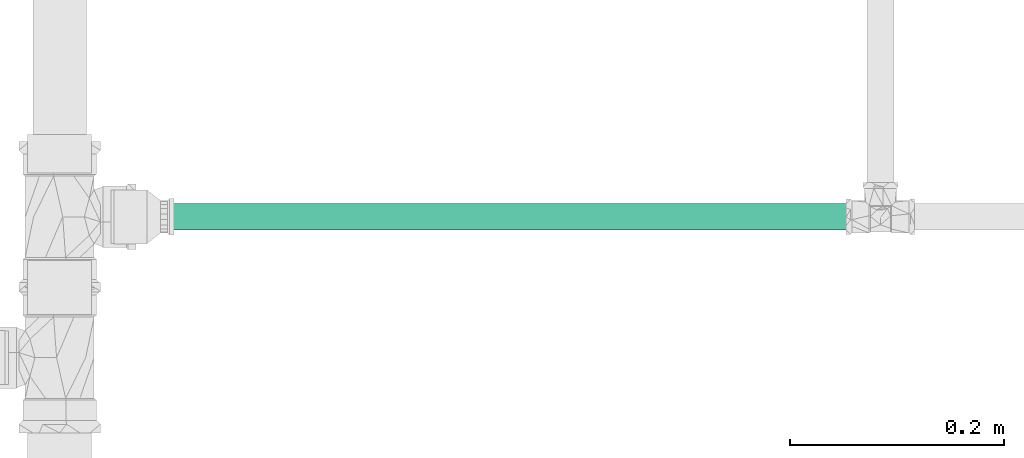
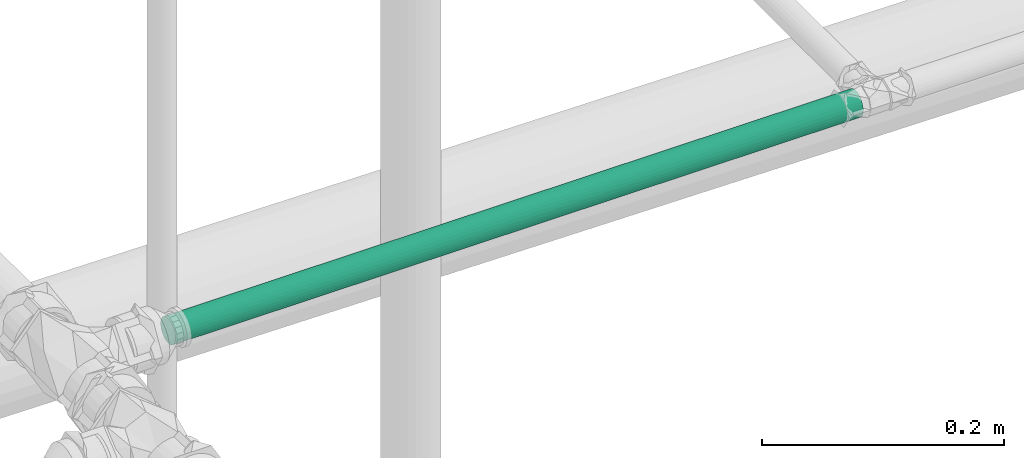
# One storey, part 196 of 589: 1 flow segment.
"""IFC2X3 building model written with IfcOpenShell, lengths in millimetres."""

from ifc_helpers import new_model, entity, si_unit, converted_unit, derived_unit, direction, frame, origin, origin_2d_with_axis, place, context, subcontext, project, spatial, circle, extrude, type_object, element, save


model = new_model("IFC2X3")

# Units and contexts
model_context = context("Model", 3, precision=0.01, world=origin(), true_north=direction((6.123031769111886e-17, 1.0)))
body_context = subcontext(model_context, "Body", "Model", "MODEL_VIEW")
ifc_project = project(units=[si_unit("LENGTHUNIT", "METRE", prefix="MILLI"), si_unit("AREAUNIT", "SQUARE_METRE"), si_unit("VOLUMEUNIT", "CUBIC_METRE"), converted_unit("PLANEANGLEUNIT", "DEGREE", entity("IfcRatioMeasure", 0.017453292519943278), si_unit("PLANEANGLEUNIT", "RADIAN"), dimensions=[0, 0, 0, 0, 0, 0, 0]), si_unit("MASSUNIT", "GRAM", prefix="KILO"), derived_unit("MASSDENSITYUNIT", [(si_unit("MASSUNIT", "GRAM", prefix="KILO"), 1), (si_unit("LENGTHUNIT", "METRE"), -3)]), derived_unit("IONCONCENTRATIONUNIT", [(si_unit("MASSUNIT", "GRAM", prefix="KILO"), 1), (si_unit("LENGTHUNIT", "METRE"), -3)]), derived_unit("MOMENTOFINERTIAUNIT", [(si_unit("LENGTHUNIT", "METRE"), 4)]), si_unit("TIMEUNIT", "SECOND"), si_unit("FREQUENCYUNIT", "HERTZ"), si_unit("THERMODYNAMICTEMPERATUREUNIT", "DEGREE_CELSIUS"), derived_unit("THERMALTRANSMITTANCEUNIT", [(si_unit("MASSUNIT", "GRAM", prefix="KILO"), 1), (si_unit("THERMODYNAMICTEMPERATUREUNIT", "KELVIN"), -1), (si_unit("TIMEUNIT", "SECOND"), -3)]), derived_unit("THERMALCONDUCTANCEUNIT", [(si_unit("MASSUNIT", "GRAM", prefix="KILO"), 1), (si_unit("THERMODYNAMICTEMPERATUREUNIT", "KELVIN"), -1), (si_unit("TIMEUNIT", "SECOND"), -3), (si_unit("LENGTHUNIT", "METRE"), 1)]), derived_unit("VOLUMETRICFLOWRATEUNIT", [(si_unit("LENGTHUNIT", "METRE"), 3), (si_unit("TIMEUNIT", "SECOND"), -1)]), derived_unit("MASSFLOWRATEUNIT", [(si_unit("MASSUNIT", "GRAM", prefix="KILO"), 1), (si_unit("TIMEUNIT", "SECOND"), -1)]), derived_unit("ROTATIONALFREQUENCYUNIT", [(si_unit("TIMEUNIT", "SECOND"), -1)]), si_unit("ELECTRICCURRENTUNIT", "AMPERE"), si_unit("ELECTRICVOLTAGEUNIT", "VOLT"), si_unit("POWERUNIT", "WATT"), si_unit("FORCEUNIT", "NEWTON", prefix="KILO"), si_unit("ILLUMINANCEUNIT", "LUX"), si_unit("LUMINOUSFLUXUNIT", "LUMEN"), si_unit("LUMINOUSINTENSITYUNIT", "CANDELA"), derived_unit("USERDEFINED", [(si_unit("MASSUNIT", "GRAM", prefix="KILO"), -1), (si_unit("LENGTHUNIT", "METRE"), -2), (si_unit("TIMEUNIT", "SECOND"), 3), (si_unit("LUMINOUSFLUXUNIT", "LUMEN"), 1)]), derived_unit("USERDEFINED", [(si_unit("MASSUNIT", "GRAM", prefix="KILO"), 1), (si_unit("TIMEUNIT", "SECOND"), -3), (si_unit("LENGTHUNIT", "METRE"), 3), (si_unit("ELECTRICCURRENTUNIT", "AMPERE"), -2)]), derived_unit("SOUNDPOWERUNIT", [(si_unit("MASSUNIT", "GRAM", prefix="KILO"), 1), (si_unit("TIMEUNIT", "SECOND"), -3), (si_unit("LENGTHUNIT", "METRE"), 2)]), derived_unit("SOUNDPRESSUREUNIT", [(si_unit("MASSUNIT", "GRAM", prefix="KILO"), 1), (si_unit("LENGTHUNIT", "METRE"), -1), (si_unit("TIMEUNIT", "SECOND"), -2)]), derived_unit("LINEARVELOCITYUNIT", [(si_unit("LENGTHUNIT", "METRE"), 1), (si_unit("TIMEUNIT", "SECOND"), -1)]), si_unit("PRESSUREUNIT", "PASCAL"), derived_unit("USERDEFINED", [(si_unit("MASSUNIT", "GRAM", prefix="KILO"), 1), (si_unit("LENGTHUNIT", "METRE"), -2), (si_unit("TIMEUNIT", "SECOND"), -2)]), derived_unit("LINEARFORCEUNIT", [(si_unit("MASSUNIT", "GRAM", prefix="KILO"), 1), (si_unit("TIMEUNIT", "SECOND"), -2)]), derived_unit("PLANARFORCEUNIT", [(si_unit("MASSUNIT", "GRAM", prefix="KILO"), 1), (si_unit("LENGTHUNIT", "METRE"), -1), (si_unit("TIMEUNIT", "SECOND"), -2)]), derived_unit("SPECIFICHEATCAPACITYUNIT", [(si_unit("THERMODYNAMICTEMPERATUREUNIT", "KELVIN"), -1), (si_unit("LENGTHUNIT", "METRE"), 2), (si_unit("TIMEUNIT", "SECOND"), -2)]), derived_unit("HEATINGVALUEUNIT", [(si_unit("LENGTHUNIT", "METRE"), 2), (si_unit("TIMEUNIT", "SECOND"), -2)]), derived_unit("VAPORPERMEABILITYUNIT", [(si_unit("LENGTHUNIT", "METRE"), -1), (si_unit("TIMEUNIT", "SECOND"), 1)]), derived_unit("DYNAMICVISCOSITYUNIT", [(si_unit("MASSUNIT", "GRAM", prefix="KILO"), 1), (si_unit("TIMEUNIT", "SECOND"), -1), (si_unit("LENGTHUNIT", "METRE"), -1)]), derived_unit("THERMALEXPANSIONCOEFFICIENTUNIT", [(si_unit("THERMODYNAMICTEMPERATUREUNIT", "KELVIN"), -1)]), derived_unit("MODULUSOFELASTICITYUNIT", [(si_unit("MASSUNIT", "GRAM", prefix="KILO"), 1), (si_unit("LENGTHUNIT", "METRE"), -1), (si_unit("TIMEUNIT", "SECOND"), -2)]), derived_unit("ISOTHERMALMOISTURECAPACITYUNIT", [(si_unit("LENGTHUNIT", "METRE"), 3), (si_unit("MASSUNIT", "GRAM", prefix="KILO"), -1)]), derived_unit("MOISTUREDIFFUSIVITYUNIT", [(si_unit("TIMEUNIT", "SECOND"), -1), (si_unit("LENGTHUNIT", "METRE"), 2)])], contexts=[model_context])

# Site, building, storey
site_placement = place(None, origin())
site = spatial("IfcSite", under=ifc_project, at=site_placement, Name="Default", CompositionType="ELEMENT")
building_placement = place(site_placement, origin())
building = spatial("IfcBuilding", under=site, at=building_placement, CompositionType="ELEMENT")
storey_placement = place(building_placement, frame((0.0, 0.0, 100.0)))
storey = spatial("IfcBuildingStorey", under=building, at=storey_placement, Name="TÉRREO", CompositionType="ELEMENT", Elevation=100.0)

# Flow segment
pipe_segment_type = type_object("IfcPipeSegmentType", Name="Tipos de tubos:PVC Marrom Soldável", PredefinedType="NOTDEFINED")
flow_segment_placement = place(storey_placement, origin())
element("IfcFlowSegment", 1, at=flow_segment_placement, inside=storey, type_object=pipe_segment_type, Name="Tipos de tubos:PVC Marrom Soldável", ObjectType="Tipos de tubos:PVC Marrom Soldável", context=body_context, shape_type="SweptSolid", body=[
    extrude(circle(Radius=12.5, at=origin_2d_with_axis()), frame((10710.454026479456, -1760.7814166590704, 3000.0), z_axis=(1.0, 0.0, 0.0), x_axis=(0.0, 1.0, 0.0)), (0.0, 0.0, 1.0), 656.6672298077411),
])

save(model, "model.ifc")
